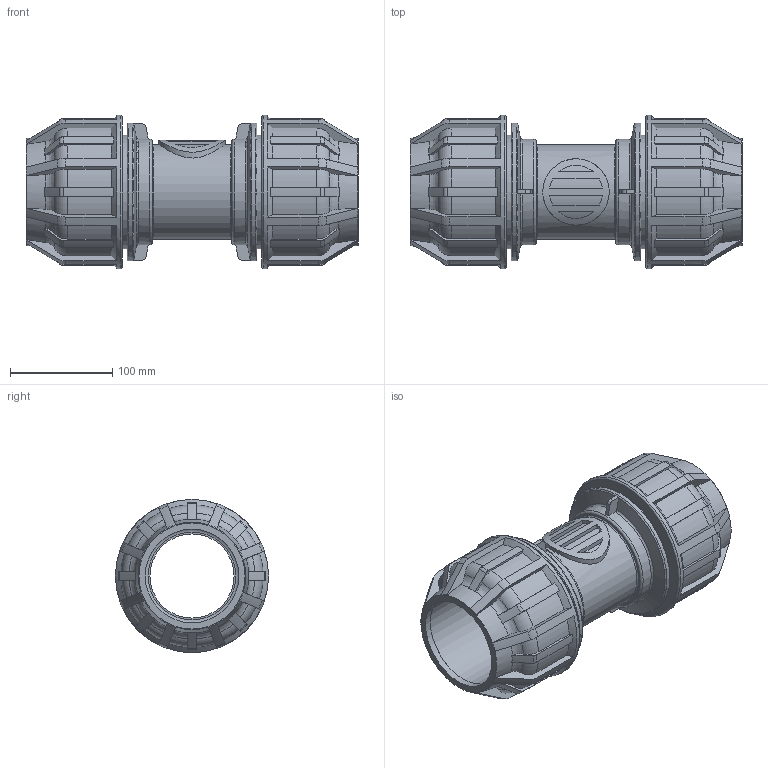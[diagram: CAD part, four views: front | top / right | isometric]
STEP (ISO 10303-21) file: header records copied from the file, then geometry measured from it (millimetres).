
FILE_DESCRIPTION(/* description */ ('STEP AP214'),/* implementation_level */ '2;1');
FILE_NAME(/* name */ '331B00090(400)',/* time_stamp */ '2025-01-13T14:34:38+01:00',/* author */ ('License CC BY-ND 4.0'),/* organization */ ('CADENAS'),/* preprocessor_version */ 'ST-DEVELOPER v19.3',/* originating_system */ 'PARTsolutions',/* authorisation */ ' ');
FILE_SCHEMA (('AUTOMOTIVE_DESIGN {1 0 10303 214 3 1 1}'));
Length unit declared in the file: millimetre
Products named in the file (1): 331B00090(400)
Bounding box: 325 x 150 x 150 mm (x, y, z)
Volume: 1727213 mm3; surface area: 287082.9 mm2
Topology: 1 solids, 1 shells, 362 faces, 1024 edges, 679 vertices
Faces by surface type: torus 114, plane 98, cylinder 82, cone 68
Full cylindrical faces by diameter (mm): 65 x1, 82.35 x1, 91.5 x2, 93 x1, 93.5 x2, 103.5 x2, 111 x2, 135 x2, 150 x2
Entity records: 12596 total; most frequent: CARTESIAN_POINT 3947, ORIENTED_EDGE 1972, DIRECTION 1578, EDGE_CURVE 986, AXIS2_PLACEMENT_3D 695, VERTEX_POINT 670, B_SPLINE_CURVE_WITH_KNOTS 466, EDGE_LOOP 408
